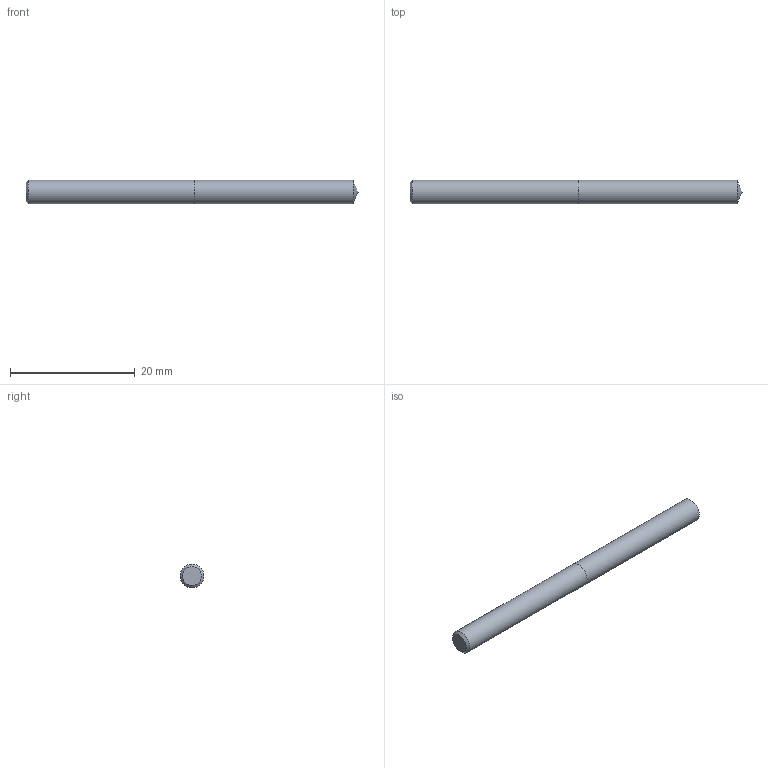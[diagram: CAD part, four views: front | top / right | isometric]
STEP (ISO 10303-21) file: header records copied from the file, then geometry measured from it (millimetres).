
FILE_DESCRIPTION (( 'STEP AP214' ), '1' );
FILE_NAME ('03-2367.STEP', '2022-06-03T06:48:48', ( 'USER' ), ( '' ), 'SwSTEP 2.0', 'SolidWorks 2018', '' );
FILE_SCHEMA (( 'AUTOMOTIVE_DESIGN' ));
Length unit declared in the file: inch
Products named in the file (1): 03-2367
Bounding box: 53.17 x 3.8 x 3.8 mm (x, y, z)
Volume: 595.5 mm3; surface area: 668.4 mm2
Topology: 2 solids, 2 shells, 7 faces, 11 edges, 7 vertices
Faces by surface type: plane 3, cylinder 2, cone 2
Full cylindrical faces by diameter (mm): 3.797 x2
Entity records: 214 total; most frequent: DIRECTION 26, CARTESIAN_POINT 18, AXIS2_PLACEMENT_3D 13, ORIENTED_EDGE 10, EDGE_LOOP 10, FACE_OUTER_BOUND 9, UNCERTAINTY_MEASURE_WITH_UNIT 7, LENGTH_MEASURE_WITH_UNIT 7
